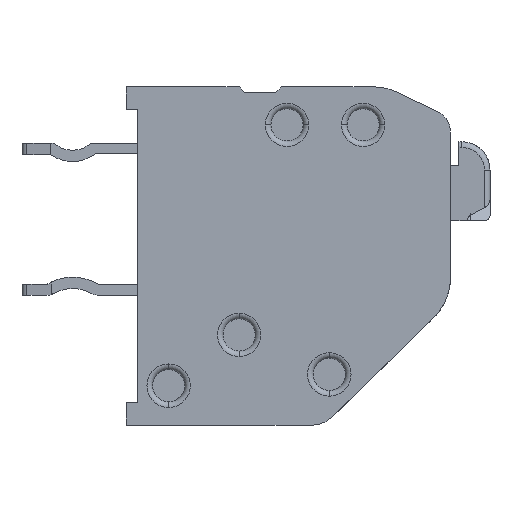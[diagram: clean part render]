
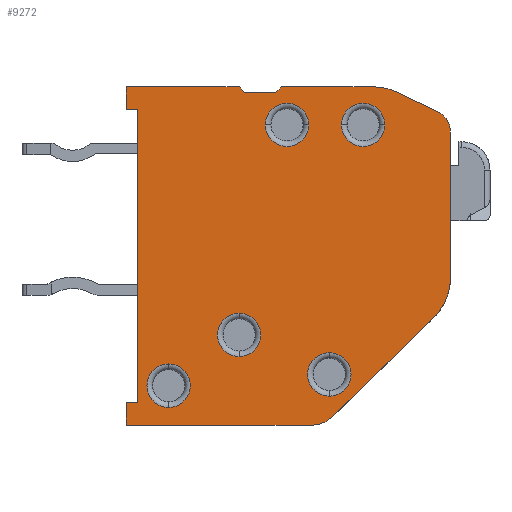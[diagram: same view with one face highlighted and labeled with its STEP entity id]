
A CAD part, front view. The second image highlights one B-rep face of the part: STEP entity #9272.
In plain terms, the highlighted planar face has unit normal (0, -1, 0).
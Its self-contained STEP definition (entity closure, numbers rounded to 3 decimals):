
#335=DIRECTION('',(0.,0.,1.));
#336=VECTOR('',#335,5.154);
#337=CARTESIAN_POINT('',(11.5,0.,-6.758));
#338=LINE('',#337,#336);
#423=DIRECTION('',(-1.,0.,0.));
#424=VECTOR('',#423,3.292);
#425=CARTESIAN_POINT('',(8.792,0.,0.));
#426=LINE('',#425,#424);
#447=DIRECTION('',(-1.,0.,0.));
#448=VECTOR('',#447,4.);
#449=CARTESIAN_POINT('',(4.,0.,0.));
#450=LINE('',#449,#448);
#523=DIRECTION('',(0.,0.,-1.));
#524=VECTOR('',#523,10.4);
#525=CARTESIAN_POINT('',(0.4,0.,-0.8));
#526=LINE('',#525,#524);
#663=DIRECTION('',(1.,0.,0.));
#664=VECTOR('',#663,6.592);
#665=CARTESIAN_POINT('',(0.,0.,-12.));
#666=LINE('',#665,#664);
#1955=CARTESIAN_POINT('',(6.592,0.,-11.));
#1956=DIRECTION('',(0.,1.,0.));
#1957=DIRECTION('',(0.699,0.,-0.715));
#1958=AXIS2_PLACEMENT_3D('',#1955,#1956,#1957);
#1960=DIRECTION('',(0.,0.,1.));
#1961=VECTOR('',#1960,0.8);
#1962=CARTESIAN_POINT('',(0.,0.,-12.));
#1963=LINE('',#1962,#1961);
#1964=DIRECTION('',(1.,0.,0.));
#1965=VECTOR('',#1964,0.4);
#1966=CARTESIAN_POINT('',(0.,0.,-11.2));
#1967=LINE('',#1966,#1965);
#1968=DIRECTION('',(-1.,0.,0.));
#1969=VECTOR('',#1968,0.4);
#1970=CARTESIAN_POINT('',(0.4,0.,-0.8));
#1971=LINE('',#1970,#1969);
#1972=DIRECTION('',(0.,0.,1.));
#1973=VECTOR('',#1972,0.8);
#1974=CARTESIAN_POINT('',(0.,0.,-0.8));
#1975=LINE('',#1974,#1973);
#1976=DIRECTION('',(0.707,0.,-0.707));
#1977=VECTOR('',#1976,0.283);
#1978=CARTESIAN_POINT('',(4.,0.,0.));
#1979=LINE('',#1978,#1977);
#1980=DIRECTION('',(1.,0.,0.));
#1981=VECTOR('',#1980,1.1);
#1982=CARTESIAN_POINT('',(4.2,0.,-0.2));
#1983=LINE('',#1982,#1981);
#1984=DIRECTION('',(0.707,0.,0.707));
#1985=VECTOR('',#1984,0.283);
#1986=CARTESIAN_POINT('',(5.3,0.,-0.2));
#1987=LINE('',#1986,#1985);
#1988=CARTESIAN_POINT('',(8.792,0.,-1.8));
#1989=DIRECTION('',(0.,1.,0.));
#1990=DIRECTION('',(0.,0.,1.));
#1991=AXIS2_PLACEMENT_3D('',#1988,#1989,#1990);
#1993=DIRECTION('',(0.902,0.,-0.431));
#1994=VECTOR('',#1993,1.637);
#1995=CARTESIAN_POINT('',(9.568,0.,-0.176));
#1996=LINE('',#1995,#1994);
#1997=CARTESIAN_POINT('',(10.7,0.,-1.604));
#1998=DIRECTION('',(0.,1.,0.));
#1999=DIRECTION('',(0.431,0.,0.902));
#2000=AXIS2_PLACEMENT_3D('',#1997,#1998,#1999);
#2002=CARTESIAN_POINT('',(9.5,0.,-6.758));
#2003=DIRECTION('',(0.,1.,0.));
#2004=DIRECTION('',(1.,0.,0.));
#2005=AXIS2_PLACEMENT_3D('',#2002,#2003,#2004);
#2007=DIRECTION('',(-0.715,0.,-0.699));
#2008=VECTOR('',#2007,5.044);
#2009=CARTESIAN_POINT('',(10.898,0.,-8.188));
#2010=LINE('',#2009,#2008);
#2069=CARTESIAN_POINT('',(8.4,0.,-1.35));
#2070=DIRECTION('',(0.,1.,0.));
#2071=DIRECTION('',(1.,0.,0.));
#2072=AXIS2_PLACEMENT_3D('',#2069,#2070,#2071);
#2094=CARTESIAN_POINT('',(1.5,0.,-10.6));
#2095=DIRECTION('',(0.,1.,0.));
#2096=DIRECTION('',(0.,0.,-1.));
#2097=AXIS2_PLACEMENT_3D('',#2094,#2095,#2096);
#2109=CARTESIAN_POINT('',(1.5,0.,-10.6));
#2110=DIRECTION('',(0.,1.,0.));
#2111=DIRECTION('',(0.,0.,1.));
#2112=AXIS2_PLACEMENT_3D('',#2109,#2110,#2111);
#2124=CARTESIAN_POINT('',(7.2,0.,-10.2));
#2125=DIRECTION('',(0.,1.,0.));
#2126=DIRECTION('',(0.,0.,1.));
#2127=AXIS2_PLACEMENT_3D('',#2124,#2125,#2126);
#2139=CARTESIAN_POINT('',(7.2,0.,-10.2));
#2140=DIRECTION('',(0.,1.,0.));
#2141=DIRECTION('',(0.,0.,-1.));
#2142=AXIS2_PLACEMENT_3D('',#2139,#2140,#2141);
#2154=CARTESIAN_POINT('',(4.,0.,-8.8));
#2155=DIRECTION('',(0.,1.,0.));
#2156=DIRECTION('',(0.,0.,-1.));
#2157=AXIS2_PLACEMENT_3D('',#2154,#2155,#2156);
#2169=CARTESIAN_POINT('',(4.,0.,-8.8));
#2170=DIRECTION('',(0.,1.,0.));
#2171=DIRECTION('',(0.,0.,1.));
#2172=AXIS2_PLACEMENT_3D('',#2169,#2170,#2171);
#2179=CARTESIAN_POINT('',(5.7,0.,-1.35));
#2180=DIRECTION('',(0.,1.,0.));
#2181=DIRECTION('',(-1.,0.,0.));
#2182=AXIS2_PLACEMENT_3D('',#2179,#2180,#2181);
#2194=CARTESIAN_POINT('',(5.7,0.,-1.35));
#2195=DIRECTION('',(0.,1.,0.));
#2196=DIRECTION('',(1.,0.,0.));
#2197=AXIS2_PLACEMENT_3D('',#2194,#2195,#2196);
#2204=CARTESIAN_POINT('',(8.4,0.,-1.35));
#2205=DIRECTION('',(0.,1.,0.));
#2206=DIRECTION('',(-1.,0.,0.));
#2207=AXIS2_PLACEMENT_3D('',#2204,#2205,#2206);
#4694=CARTESIAN_POINT('',(11.5,0.,-1.604));
#4696=VERTEX_POINT('',#4694);
#4719=CARTESIAN_POINT('',(11.5,0.,-6.758));
#4720=VERTEX_POINT('',#4719);
#4787=CARTESIAN_POINT('',(11.045,0.,-0.882));
#4789=VERTEX_POINT('',#4787);
#4792=CARTESIAN_POINT('',(9.568,0.,-0.176));
#4794=VERTEX_POINT('',#4792);
#4795=CARTESIAN_POINT('',(8.792,0.,0.));
#4797=VERTEX_POINT('',#4795);
#4799=CARTESIAN_POINT('',(5.5,0.,0.));
#4801=VERTEX_POINT('',#4799);
#4803=CARTESIAN_POINT('',(5.3,0.,-0.2));
#4805=VERTEX_POINT('',#4803);
#4807=CARTESIAN_POINT('',(4.2,0.,-0.2));
#4809=VERTEX_POINT('',#4807);
#4812=CARTESIAN_POINT('',(4.,0.,0.));
#4814=VERTEX_POINT('',#4812);
#4825=CARTESIAN_POINT('',(0.,0.,0.));
#4826=VERTEX_POINT('',#4825);
#4895=CARTESIAN_POINT('',(0.4,0.,-0.8));
#4896=VERTEX_POINT('',#4895);
#4897=CARTESIAN_POINT('',(0.4,0.,-11.2));
#4898=VERTEX_POINT('',#4897);
#4990=CARTESIAN_POINT('',(6.592,0.,-12.));
#4992=VERTEX_POINT('',#4990);
#5011=CARTESIAN_POINT('',(0.,0.,-12.));
#5012=VERTEX_POINT('',#5011);
#5013=CARTESIAN_POINT('',(7.291,0.,-11.715));
#5015=VERTEX_POINT('',#5013);
#5023=CARTESIAN_POINT('',(10.898,0.,-8.188));
#5024=VERTEX_POINT('',#5023);
#5579=CARTESIAN_POINT('',(0.,0.,-11.2));
#5580=VERTEX_POINT('',#5579);
#5581=CARTESIAN_POINT('',(0.,0.,-0.8));
#5582=VERTEX_POINT('',#5581);
#5837=CARTESIAN_POINT('',(9.17,0.,-1.35));
#5838=VERTEX_POINT('',#5837);
#5839=CARTESIAN_POINT('',(7.63,0.,-1.35));
#5840=VERTEX_POINT('',#5839);
#5841=CARTESIAN_POINT('',(4.93,0.,-1.35));
#5842=VERTEX_POINT('',#5841);
#5843=CARTESIAN_POINT('',(6.47,0.,-1.35));
#5844=VERTEX_POINT('',#5843);
#5845=CARTESIAN_POINT('',(4.,0.,-8.03));
#5846=VERTEX_POINT('',#5845);
#5847=CARTESIAN_POINT('',(4.,0.,-9.57));
#5848=VERTEX_POINT('',#5847);
#5849=CARTESIAN_POINT('',(7.2,0.,-10.97));
#5850=VERTEX_POINT('',#5849);
#5851=CARTESIAN_POINT('',(7.2,0.,-9.43));
#5852=VERTEX_POINT('',#5851);
#5857=CARTESIAN_POINT('',(1.5,0.,-9.83));
#5858=VERTEX_POINT('',#5857);
#5859=CARTESIAN_POINT('',(1.5,0.,-11.37));
#5860=VERTEX_POINT('',#5859);
#9213=CARTESIAN_POINT('',(5.95,0.,-6.));
#9214=DIRECTION('',(0.,1.,0.));
#9215=DIRECTION('',(1.,0.,0.));
#9216=AXIS2_PLACEMENT_3D('',#9213,#9214,#9215);
#9217=PLANE('',#9216);
#9218=ORIENTED_EDGE('',*,*,#7081,.T.);
#9219=ORIENTED_EDGE('',*,*,#7066,.F.);
#9221=ORIENTED_EDGE('',*,*,#9220,.T.);
#9223=ORIENTED_EDGE('',*,*,#9222,.T.);
#9224=ORIENTED_EDGE('',*,*,#6865,.F.);
#9226=ORIENTED_EDGE('',*,*,#9225,.T.);
#9228=ORIENTED_EDGE('',*,*,#9227,.T.);
#9229=ORIENTED_EDGE('',*,*,#6758,.F.);
#9230=ORIENTED_EDGE('',*,*,#6737,.T.);
#9231=ORIENTED_EDGE('',*,*,#6722,.T.);
#9232=ORIENTED_EDGE('',*,*,#6707,.T.);
#9233=ORIENTED_EDGE('',*,*,#6692,.F.);
#9234=ORIENTED_EDGE('',*,*,#6677,.T.);
#9235=ORIENTED_EDGE('',*,*,#6662,.T.);
#9236=ORIENTED_EDGE('',*,*,#6647,.T.);
#9237=ORIENTED_EDGE('',*,*,#6557,.F.);
#9238=ORIENTED_EDGE('',*,*,#9208,.T.);
#9239=ORIENTED_EDGE('',*,*,#7100,.T.);
#9240=EDGE_LOOP('',(#9218,#9219,#9221,#9223,#9224,#9226,#9228,#9229,#9230,#9231,
#9232,#9233,#9234,#9235,#9236,#9237,#9238,#9239));
#9241=FACE_OUTER_BOUND('',#9240,.F.);
#9243=ORIENTED_EDGE('',*,*,#9242,.F.);
#9245=ORIENTED_EDGE('',*,*,#9244,.F.);
#9246=EDGE_LOOP('',(#9243,#9245));
#9247=FACE_BOUND('',#9246,.F.);
#9249=ORIENTED_EDGE('',*,*,#9248,.F.);
#9251=ORIENTED_EDGE('',*,*,#9250,.F.);
#9252=EDGE_LOOP('',(#9249,#9251));
#9253=FACE_BOUND('',#9252,.F.);
#9255=ORIENTED_EDGE('',*,*,#9254,.F.);
#9257=ORIENTED_EDGE('',*,*,#9256,.F.);
#9258=EDGE_LOOP('',(#9255,#9257));
#9259=FACE_BOUND('',#9258,.F.);
#9261=ORIENTED_EDGE('',*,*,#9260,.F.);
#9263=ORIENTED_EDGE('',*,*,#9262,.F.);
#9264=EDGE_LOOP('',(#9261,#9263));
#9265=FACE_BOUND('',#9264,.F.);
#9267=ORIENTED_EDGE('',*,*,#9266,.F.);
#9269=ORIENTED_EDGE('',*,*,#9268,.F.);
#9270=EDGE_LOOP('',(#9267,#9269));
#9271=FACE_BOUND('',#9270,.F.);
#9272=ADVANCED_FACE('',(#9241,#9247,#9253,#9259,#9265,#9271),#9217,.F.);
#1959=CIRCLE('',#1958,1.);
#1992=CIRCLE('',#1991,1.8);
#2001=CIRCLE('',#2000,0.8);
#2006=CIRCLE('',#2005,2.);
#2073=CIRCLE('',#2072,0.77);
#2098=CIRCLE('',#2097,0.77);
#2113=CIRCLE('',#2112,0.77);
#2128=CIRCLE('',#2127,0.77);
#2143=CIRCLE('',#2142,0.77);
#2158=CIRCLE('',#2157,0.77);
#2173=CIRCLE('',#2172,0.77);
#2183=CIRCLE('',#2182,0.77);
#2198=CIRCLE('',#2197,0.77);
#2208=CIRCLE('',#2207,0.77);
#6557=EDGE_CURVE('',#4720,#4696,#338,.T.);
#6647=EDGE_CURVE('',#4789,#4696,#2001,.T.);
#6662=EDGE_CURVE('',#4794,#4789,#1996,.T.);
#6677=EDGE_CURVE('',#4797,#4794,#1992,.T.);
#6692=EDGE_CURVE('',#4797,#4801,#426,.T.);
#6707=EDGE_CURVE('',#4805,#4801,#1987,.T.);
#6722=EDGE_CURVE('',#4809,#4805,#1983,.T.);
#6737=EDGE_CURVE('',#4814,#4809,#1979,.T.);
#6758=EDGE_CURVE('',#4814,#4826,#450,.T.);
#6865=EDGE_CURVE('',#4896,#4898,#526,.T.);
#7066=EDGE_CURVE('',#5012,#4992,#666,.T.);
#7081=EDGE_CURVE('',#5015,#4992,#1959,.T.);
#7100=EDGE_CURVE('',#5024,#5015,#2010,.T.);
#9208=EDGE_CURVE('',#4720,#5024,#2006,.T.);
#9220=EDGE_CURVE('',#5012,#5580,#1963,.T.);
#9222=EDGE_CURVE('',#5580,#4898,#1967,.T.);
#9225=EDGE_CURVE('',#4896,#5582,#1971,.T.);
#9227=EDGE_CURVE('',#5582,#4826,#1975,.T.);
#9242=EDGE_CURVE('',#5838,#5840,#2073,.T.);
#9244=EDGE_CURVE('',#5840,#5838,#2208,.T.);
#9248=EDGE_CURVE('',#5844,#5842,#2198,.T.);
#9250=EDGE_CURVE('',#5842,#5844,#2183,.T.);
#9254=EDGE_CURVE('',#5848,#5846,#2158,.T.);
#9256=EDGE_CURVE('',#5846,#5848,#2173,.T.);
#9260=EDGE_CURVE('',#5860,#5858,#2098,.T.);
#9262=EDGE_CURVE('',#5858,#5860,#2113,.T.);
#9266=EDGE_CURVE('',#5852,#5850,#2128,.T.);
#9268=EDGE_CURVE('',#5850,#5852,#2143,.T.);
